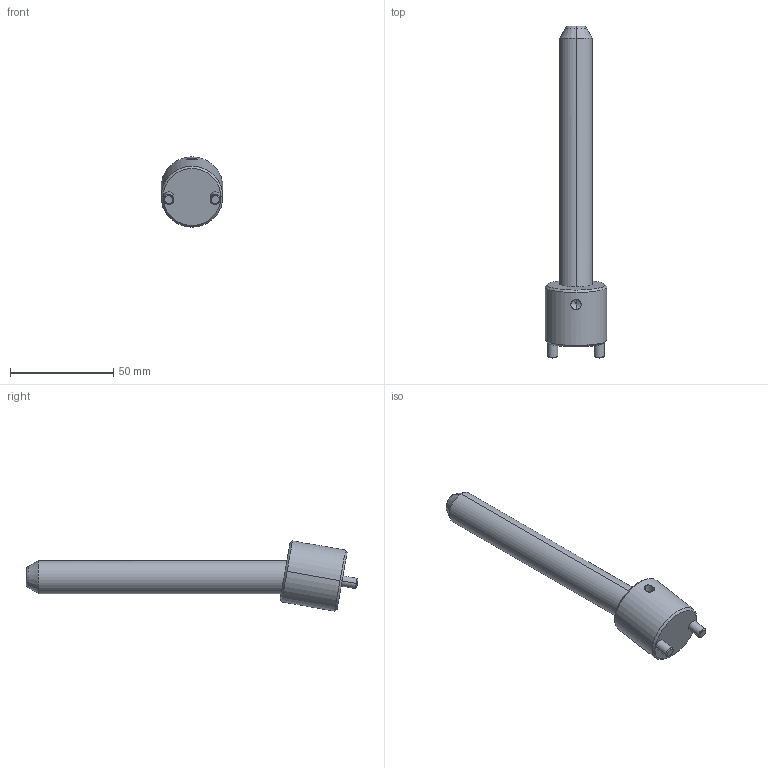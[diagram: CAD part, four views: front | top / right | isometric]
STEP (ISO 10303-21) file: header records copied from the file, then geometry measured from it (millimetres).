
FILE_DESCRIPTION(('CATIA V5 STEP Exchange'),'2;1');
FILE_NAME('C:\Users\Raffaele\Desktop\3D BOLEX\3D FILES CF BOLEX\19-INCLINED ASSEMBLY REF_CI\CI1016125.stp','2019-06-21T13:53:41+00:00',('none'),('none'),'CATIA Version 5 Release 20 GA (IN-10)','CATIA V5 STEP AP203','none');
FILE_SCHEMA(('CONFIG_CONTROL_DESIGN'));
Length unit declared in the file: millimetre
Products named in the file (1): CI1016125
Assembly tree (2 placements, depth 2):
  CI1016125
    #58
    #578
Bounding box: 30 x 160.83 x 34.06 mm (x, y, z)
Volume: 44371.7 mm3; surface area: 13232.2 mm2
Topology: 2 solids, 2 shells, 39 faces, 82 edges, 47 vertices
Faces by surface type: cone 14, cylinder 14, plane 7, torus 4
Entity records: 1479 total; most frequent: CARTESIAN_POINT 622, ORIENTED_EDGE 160, DIRECTION 144, EDGE_CURVE 80, AXIS2_PLACEMENT_3D 71, VERTEX_POINT 47, EDGE_LOOP 43, ADVANCED_FACE 39
